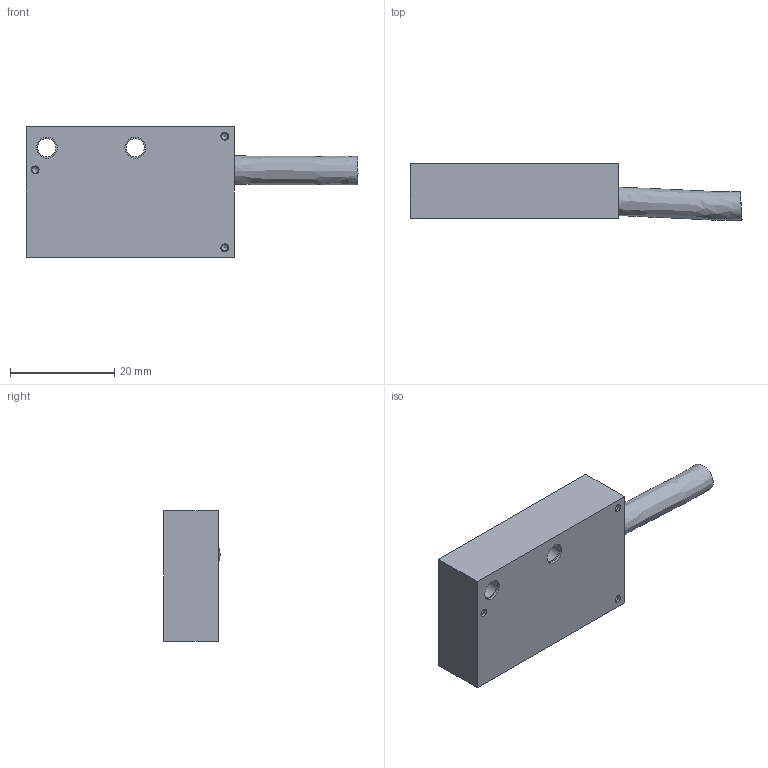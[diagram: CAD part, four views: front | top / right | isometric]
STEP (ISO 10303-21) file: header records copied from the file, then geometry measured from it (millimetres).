
FILE_DESCRIPTION( ( 'Unknown' ), '1' );
FILE_NAME( 'C:/Users/malfermoa/Desktop/step/ETMA.stp', 'Unknown', ( 'Unknown' ), ( 'Unknown' ), 'PSStep 15.0.49', 'Unknown', ' ' );
FILE_SCHEMA( ( 'AUTOMOTIVE_DESIGN { 1 0 10303 214 1 1 1 1 }' ) );
Length unit declared in the file: millimetre
Products named in the file (1): 41890185B1
Bounding box: 63.8 x 10.9 x 25 mm (x, y, z)
Volume: 4582.3 mm3; surface area: 6783 mm2
Topology: 1 solids, 1 shells, 66 faces, 180 edges, 122 vertices
Faces by surface type: plane 34, cylinder 28, cone 3, bspline 1
Full cylindrical faces by diameter (mm): 1.25 x3, 1.5 x3, 3.5 x2, 4 x2
Entity records: 2697 total; most frequent: CARTESIAN_POINT 551, DIRECTION 337, ORIENTED_EDGE 308, EDGE_CURVE 154, AXIS2_PLACEMENT_3D 126, VERTEX_POINT 113, EDGE_LOOP 92, LINE 85
